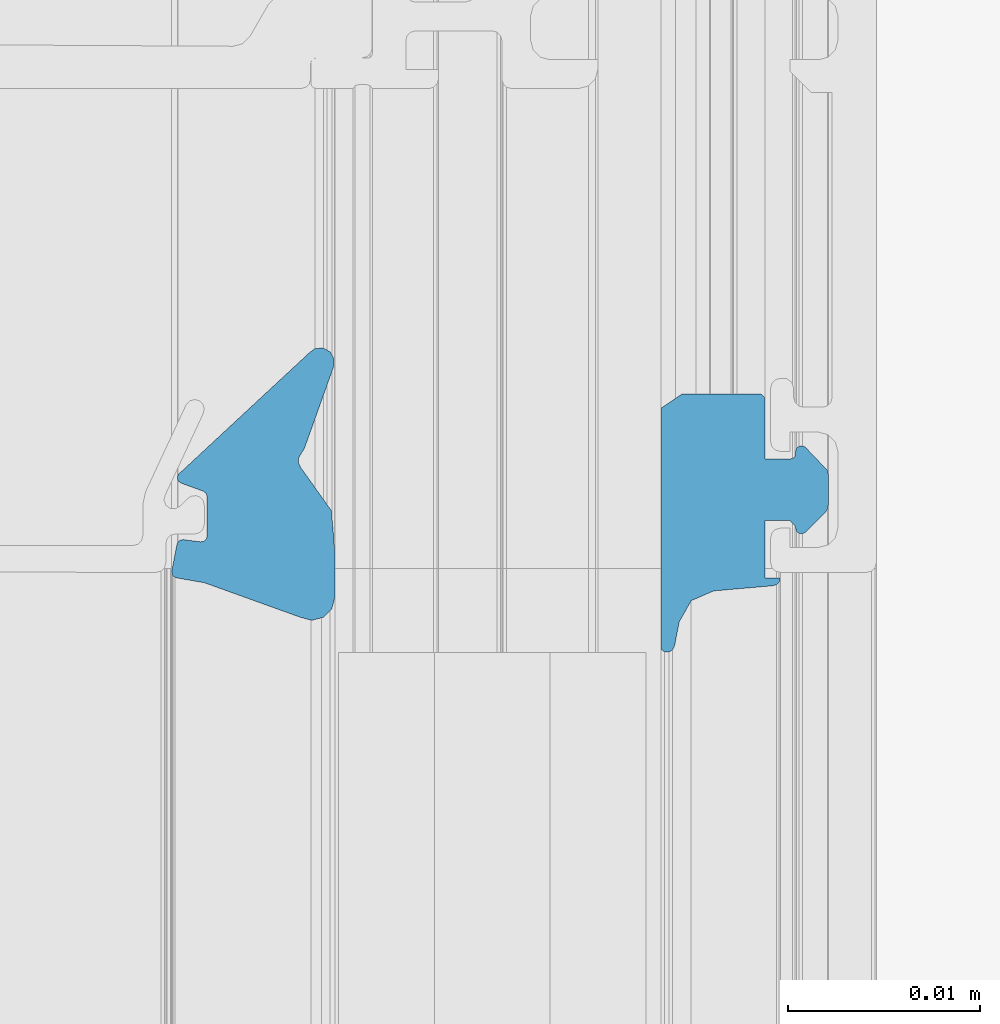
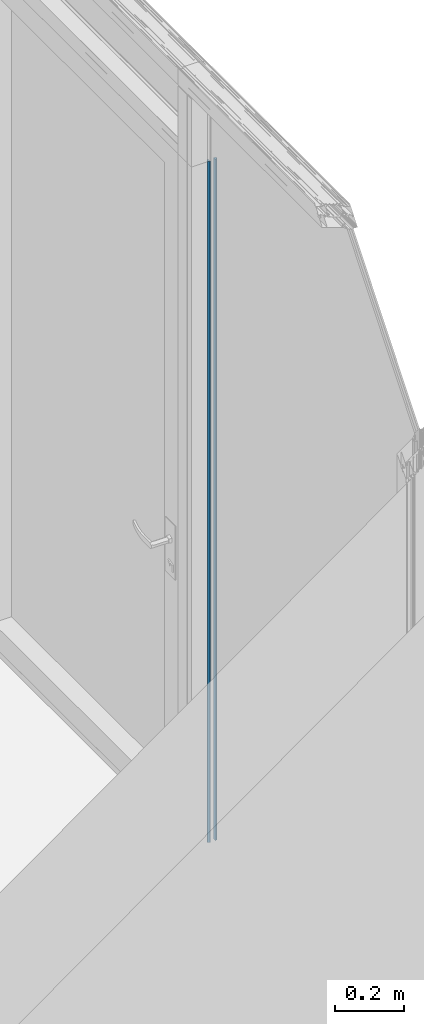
# One storey, part 19 of 65: 1 building element part, 2 elements without a shape of their own.
"""IFC2X3 building model written with IfcOpenShell, lengths in millimetres."""

import ifcopenshell
import ifcopenshell.guid

model = None  # the IFC model being written
_history = None  # IfcOwnerHistory: only IFC2X3 demands one
_inside = {}  # id of a spatial element -> (the spatial element, [elements in it])
_under = {}  # id of a project, library or spatial element -> (it, [spatial elements below it])
_declared = {}  # id of a project -> (the project, [libraries it declares])
_typed = {}  # id of a type object -> (the type object, [elements of that type])
_made_of = {}  # id of a material, layer set ... -> (it, [elements and type objects made of it])


def new_model(schema):
    """Start an empty IFC model of exactly this schema.

    Asked for "IFC4X3", IfcOpenShell would pick the latest addendum, in which some entities
    have other attributes; the version numbers below select the first issue.
    IFC2X3 requires an IfcOwnerHistory on every rooted entity: one is made here for all.
    """
    global model, _history
    if schema == "IFC4X3":
        model = ifcopenshell.file(schema_version=(4, 3, 0, 0))
    else:
        model = ifcopenshell.file(schema=schema)
    _inside.clear()
    _under.clear()
    _declared.clear()
    _typed.clear()
    _made_of.clear()
    _history = None
    if model.schema == "IFC2X3":
        org = make("IfcOrganization", Name="unknown")
        user = make(
            "IfcPersonAndOrganization",
            ThePerson=make("IfcPerson", FamilyName="unknown"),
            TheOrganization=org,
        )
        app = make(
            "IfcApplication",
            ApplicationDeveloper=org,
            Version="unknown",
            ApplicationFullName="unknown",
            ApplicationIdentifier="unknown",
        )
        _history = make(
            "IfcOwnerHistory",
            OwningUser=user,
            OwningApplication=app,
            ChangeAction="ADDED",
            CreationDate=0,
        )
    return model


def make(cls, **values):
    """One entity of the class cls with the attributes given. An attribute that is None is left unset."""
    return model.create_entity(
        cls, **{name: value for name, value in values.items() if value is not None}
    )


def entity(cls, *values):
    """Any entity or typed value of the class cls, its attributes in the order of the schema. None: left unset."""
    e = model.create_entity(cls)
    for i, value in enumerate(values):
        if value is not None:
            e[i] = value
    return e


def rooted(cls, **values):
    """An entity with a GlobalId (a new one), such as an element, a storey or a relation."""
    return make(cls, GlobalId=ifcopenshell.guid.new(), OwnerHistory=_history, **values)


def si_unit(unit_type, name, prefix=None):
    """IfcSIUnit, for example si_unit("LENGTHUNIT", "METRE", prefix="MILLI")."""
    return make("IfcSIUnit", UnitType=unit_type, Prefix=prefix, Name=name)


def converted_unit(unit_type, name, factor, base, dimensions=None, offset=None):
    """IfcConversionBasedUnit, such as the inch: factor (a typed value) times the base unit."""
    return make(
        "IfcConversionBasedUnit"
        if offset is None
        else "IfcConversionBasedUnitWithOffset",
        ConversionOffset=offset,
        Dimensions=None
        if dimensions is None
        else entity("IfcDimensionalExponents", *dimensions),
        UnitType=unit_type,
        Name=name,
        ConversionFactor=make(
            "IfcMeasureWithUnit", ValueComponent=factor, UnitComponent=base
        ),
    )


def derived_unit(unit_type, elements):
    """IfcDerivedUnit: a product of units, each with its exponent."""
    return make(
        "IfcDerivedUnit",
        Elements=[
            make("IfcDerivedUnitElement", Unit=unit, Exponent=power)
            for unit, power in elements
        ],
        UnitType=unit_type,
    )


def money_unit(currency):
    """IfcMonetaryUnit."""
    return make("IfcMonetaryUnit", Currency=currency)


def assignment(units):
    """IfcUnitAssignment: the units of a project."""
    return None if units is None else make("IfcUnitAssignment", Units=units)


def point(xyz):
    """IfcCartesianPoint."""
    return None if xyz is None else make("IfcCartesianPoint", Coordinates=xyz)


def direction(xyz):
    """IfcDirection."""
    return None if xyz is None else make("IfcDirection", DirectionRatios=xyz)


def frame(location, z_axis=None, x_axis=None):
    """IfcAxis2Placement3D, a coordinate frame: its origin and axes. An axis left out is left unset."""
    return make(
        "IfcAxis2Placement3D",
        Location=point(location),
        Axis=direction(z_axis),
        RefDirection=direction(x_axis),
    )


def origin_with_axes():
    """The frame at (0, 0, 0) with the z axis (0, 0, 1) and the x axis (1, 0, 0) written out."""
    return frame((0.0, 0.0, 0.0), z_axis=(0.0, 0.0, 1.0), x_axis=(1.0, 0.0, 0.0))


def place(relative_to, where):
    """IfcLocalPlacement: puts the frame where relative to a parent placement (None: the world)."""
    return make(
        "IfcLocalPlacement", PlacementRelTo=relative_to, RelativePlacement=where
    )


def context(
    kind, dimensions, precision=None, world=None, true_north=None, identifier=None
):
    """IfcGeometricRepresentationContext, for example the 3D "Model" context."""
    return make(
        "IfcGeometricRepresentationContext",
        ContextIdentifier=identifier,
        ContextType=kind,
        CoordinateSpaceDimension=dimensions,
        Precision=precision,
        WorldCoordinateSystem=world,
        TrueNorth=true_north,
    )


def subcontext(parent, identifier, kind, view, scale=None):
    """IfcGeometricRepresentationSubContext, for example "Body" below "Model"."""
    return make(
        "IfcGeometricRepresentationSubContext",
        ContextIdentifier=identifier,
        ContextType=kind,
        ParentContext=parent,
        TargetScale=scale,
        TargetView=view,
    )


def project(units=None, contexts=None):
    """IfcProject with its units and contexts."""
    return rooted(
        "IfcProject",
        Name="project",
        RepresentationContexts=contexts,
        UnitsInContext=assignment(units),
    )


def spatial(cls, under=None, at=None, **own):
    """A site, building, storey or space (cls), placed at a placement, below another one or the project."""
    s = rooted(cls, ObjectPlacement=at, **own)
    if under is not None:
        _under.setdefault(under.id(), (under, []))[1].append(s)
    return s


def faces_of(points, faces, orient=None, outer=None):
    """IfcFace entities. A face is a list of loops; a loop is a list of indices into points, from 0.

    orient and outer hold one flag for each loop. By default every Orientation is true, the
    first loop of a face is its IfcFaceOuterBound and the others are IfcFaceBound.
    """
    made = []
    for i, loops in enumerate(faces):
        bounds = []
        for j, loop in enumerate(loops):
            is_outer = j == 0 if outer is None else outer[i][j]
            bounds.append(
                make(
                    "IfcFaceOuterBound" if is_outer else "IfcFaceBound",
                    Bound=make("IfcPolyLoop", Polygon=[points[k] for k in loop]),
                    Orientation=True if orient is None else orient[i][j],
                )
            )
        made.append(make("IfcFace", Bounds=bounds))
    return made


def faceted_brep(points, faces, orient=None, outer=None, voids=None):
    """IfcFacetedBrep: a solid bounded by flat faces; with voids (closed shells), ...WithVoids."""
    shared = [point(p) for p in points]
    hull = make("IfcClosedShell", CfsFaces=faces_of(shared, faces, orient, outer))
    if voids is None:
        return make("IfcFacetedBrep", Outer=hull)
    return make(
        "IfcFacetedBrepWithVoids",
        Outer=hull,
        Voids=[
            make(cls, CfsFaces=faces_of(shared, fs, o, b)) for cls, fs, o, b in voids
        ],
    )


def shape(context_of_items, identifier, shape_type, items):
    """IfcShapeRepresentation: the items that make up one representation, for example the "Body"."""
    return make(
        "IfcShapeRepresentation",
        ContextOfItems=context_of_items,
        RepresentationIdentifier=identifier,
        RepresentationType=shape_type,
        Items=items,
    )


def source(mapping_origin, context_of_items, identifier, shape_type, items):
    """IfcRepresentationMap: a shape defined once, which mapped items show again and again."""
    return make(
        "IfcRepresentationMap",
        MappingOrigin=mapping_origin,
        MappedRepresentation=shape(context_of_items, identifier, shape_type, items),
    )


def transform(
    local_origin,
    x_axis=None,
    y_axis=None,
    z_axis=None,
    scale=None,
    scale2=None,
    scale3=None,
    uniform=True,
):
    """IfcCartesianTransformationOperator3D, or its non-uniform kind. x_axis, y_axis, z_axis: its Axis1, 2, 3."""
    if uniform:
        return make(
            "IfcCartesianTransformationOperator3D",
            Axis1=direction(x_axis),
            Axis2=direction(y_axis),
            LocalOrigin=point(local_origin),
            Scale=scale,
            Axis3=direction(z_axis),
        )
    return make(
        "IfcCartesianTransformationOperator3DnonUniform",
        Axis1=direction(x_axis),
        Axis2=direction(y_axis),
        LocalOrigin=point(local_origin),
        Scale=scale,
        Axis3=direction(z_axis),
        Scale2=scale2,
        Scale3=scale3,
    )


def mapped(mapping_source, mapping_target):
    """IfcMappedItem: shows the shape of a source again, moved by a transform."""
    return make(
        "IfcMappedItem", MappingSource=mapping_source, MappingTarget=mapping_target
    )


def material(Name=None, Category=None):
    """IfcMaterial."""
    return make("IfcMaterial", Name=Name, Category=Category)


def made_of(thing, what):
    """Note that an element or type object is made of a material, layer set ...; save() writes the relation."""
    if what is not None:
        _made_of.setdefault(what.id(), (what, []))[1].append(thing)
    return thing


def type_object(cls, material=None, **own):
    """A type object (cls), such as IfcWallType, which elements share."""
    return made_of(rooted(cls, **own), material)


def element(
    cls,
    number,
    at=None,
    inside=None,
    cuts=None,
    type_object=None,
    material=None,
    context=None,
    identifier="Body",
    shape_type=None,
    held_by="IfcProductDefinitionShape",
    body=None,
    shapes=None,
    **own,
):
    """One element of the class cls, such as IfcWall. Its Tag is "e" and its number.

    at: its placement. inside: the storey or other place that contains it. cuts: it is an
    opening in that element (IfcRelVoidsElement). A single representation is given by context,
    identifier, shape_type and body (its items); several are given by shapes. held_by: the class
    of the entity that holds the representations. save() writes the other relations.
    """
    e = rooted(cls, Tag="e%d" % number, ObjectPlacement=at, **own)
    if body is not None:
        shapes = [shape(context, identifier, shape_type, body)]
    if shapes is not None:
        e.Representation = make(held_by, Representations=shapes)
    if inside is not None:
        _inside.setdefault(inside.id(), (inside, []))[1].append(e)
    if cuts is not None:
        rooted(
            "IfcRelVoidsElement", RelatingBuildingElement=cuts, RelatedOpeningElement=e
        )
    if type_object is not None:
        _typed.setdefault(type_object.id(), (type_object, []))[1].append(e)
    return made_of(e, material)


def aggregate(whole, parts):
    """IfcRelAggregates: a whole, such as a stair, and the parts it consists of."""
    return rooted("IfcRelAggregates", RelatingObject=whole, RelatedObjects=parts)


def save(model, path):
    """Write the relations noted so far, then the file.

    IfcRelAggregates (storeys below a building ...), IfcRelContainedInSpatialStructure (elements
    in a storey), IfcRelDefinesByType, IfcRelAssociatesMaterial and IfcRelDeclares: one each for
    every whole, place, type object, material and project.
    """
    for whole, parts in _under.values():
        aggregate(whole, parts)
    for where, things in _inside.values():
        rooted(
            "IfcRelContainedInSpatialStructure",
            RelatedElements=things,
            RelatingStructure=where,
        )
    for kind, things in _typed.values():
        rooted("IfcRelDefinesByType", RelatedObjects=things, RelatingType=kind)
    for what, things in _made_of.values():
        rooted("IfcRelAssociatesMaterial", RelatedObjects=things, RelatingMaterial=what)
    for by, libraries in _declared.values():
        rooted("IfcRelDeclares", RelatingContext=by, RelatedDefinitions=libraries)
    model.write(path)


model = new_model("IFC2X3")

# Units and contexts
model_context = context("Model", 3, precision=0.01, world=origin_with_axes(), true_north=direction((0.0, 1.0)))
body_context = subcontext(model_context, "Body", "Model", "MODEL_VIEW")
ifc_project = project(units=[si_unit("LENGTHUNIT", "METRE", prefix="MILLI"), si_unit("AREAUNIT", "SQUARE_METRE"), si_unit("VOLUMEUNIT", "CUBIC_METRE"), converted_unit("PLANEANGLEUNIT", "DEGREE", entity("IfcPlaneAngleMeasure", 0.0174532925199), si_unit("PLANEANGLEUNIT", "RADIAN"), dimensions=[0, 0, 0, 0, 0, 0, 0]), si_unit("SOLIDANGLEUNIT", "STERADIAN"), money_unit("EUR"), converted_unit("TIMEUNIT", "Year", entity("IfcTimeMeasure", 31556926.0), si_unit("TIMEUNIT", "SECOND"), dimensions=[0, 0, 1, 0, 0, 0, 0]), si_unit("MASSUNIT", "GRAM", prefix="KILO"), si_unit("THERMODYNAMICTEMPERATUREUNIT", "DEGREE_CELSIUS"), si_unit("LUMINOUSINTENSITYUNIT", "LUMEN"), si_unit("ENERGYUNIT", "JOULE", prefix="MEGA"), derived_unit("THERMALCONDUCTANCEUNIT", [(si_unit("POWERUNIT", "WATT"), 1), (si_unit("LENGTHUNIT", "METRE"), -1), (si_unit("THERMODYNAMICTEMPERATUREUNIT", "KELVIN"), -1)]), derived_unit("SPECIFICHEATCAPACITYUNIT", [(si_unit("ENERGYUNIT", "JOULE"), 1), (si_unit("MASSUNIT", "GRAM", prefix="KILO"), -1), (si_unit("THERMODYNAMICTEMPERATUREUNIT", "KELVIN"), -1)]), derived_unit("MASSDENSITYUNIT", [(si_unit("MASSUNIT", "GRAM", prefix="KILO"), 1), (si_unit("VOLUMEUNIT", "CUBIC_METRE"), -1)])], contexts=[model_context])

# Site, building, storey
site_placement = place(None, origin_with_axes())
site = spatial("IfcSite", under=ifc_project, at=site_placement, Name="Puškini 31, Narva", CompositionType="ELEMENT")
building_placement = place(site_placement, origin_with_axes())
building = spatial("IfcBuilding", under=site, at=building_placement, Name="Narva Riigigümnaasium", CompositionType="ELEMENT")
storey_placement = place(building_placement, frame((0.0, 0.0, -1320.0), z_axis=(0.0, 0.0, 1.0), x_axis=(1.0, 0.0, 0.0)))
storey = spatial("IfcBuildingStorey", under=building, at=storey_placement, Name="1.korrus -1.32", CompositionType="ELEMENT", Elevation=-1320.0)

# Curtain wall, member, building element part
curtain_wall_type = type_object("IfcCurtainWallType", Name="Curtain Wall Type", PredefinedType="NOTDEFINED")
curtain_wall_placement = place(storey_placement, frame((28354.9542923, 194209.397521, 0.0), z_axis=(0.0, 0.0, 1.0), x_axis=(1.0, 0.0, 0.0)))
curtain_wall = element("IfcCurtainWall", 1, at=curtain_wall_placement, inside=storey, type_object=curtain_wall_type, Name="G-SKLF-07")
member_type = type_object("IfcMemberType", Name="82 x 45", PredefinedType="MULLION")
member_placement = place(curtain_wall_placement, frame((-0.00287447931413, -709.401652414, 0.0), z_axis=(0.0, 0.0, 1.0), x_axis=(-4.05197718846e-06, -0.999999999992, 0.0)))
member = element("IfcMember", 2, at=member_placement, type_object=member_type, Name="G-SKLF-07-raam", ObjectType="MULLION")
aggregate(curtain_wall, [member])
ifc_material = material(Name="Membraan - Veekindel")
shared_shape = source(origin_with_axes(), body_context, "Body", "Brep", [
    faceted_brep([(74.9898926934, 16.6230552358, 0.0), (72.7204882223, 15.0100099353, 0.0), (72.7204882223, 15.0100099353, 2400.0), (74.9898926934, 16.6230552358, 2400.0), (77.1927259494, 16.806401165, 0.0), (79.5038972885, 16.8013439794, 0.0), (80.1029794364, 16.6395947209, 0.0), (80.5411647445, 16.2002134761, 0.0), (80.7012805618, 15.6006926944, 0.0), (80.5405112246, 15.001346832, 0.0), (78.7418652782, 10.0036443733, 0.0), (78.4882789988, 8.54540440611, 0.0), (78.4207620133, 8.4047573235, 0.0), (78.2917480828, 8.3170330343, 0.0), (78.1361285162, 8.30595622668, 0.0), (76.7361285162, 8.57808865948, 0.0), (76.601588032, 8.64188392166, 0.0), (76.5142922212, 8.76250903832, 0.0), (76.4957458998, 8.91024871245, 0.0), (76.6099827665, 9.81277248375, 0.0), (76.5838261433, 9.9781344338, 0.0), (76.4731258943, 10.1037298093, 0.0), (76.3123574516, 10.1504443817, 0.0), (74.2580290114, 10.1504443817, 0.0), (74.0859560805, 10.096189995, 0.0), (73.9761212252, 9.95305042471, 0.0), (73.5556584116, 8.79783833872, 0.0), (73.4722984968, 8.67558063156, 0.0), (73.3406152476, 8.60808734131, 0.0), (73.192689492, 8.61180126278, 0.0), (73.0645590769, 8.68581760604, 0.0), (66.8142070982, 15.4145273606, 0.0), (66.5501763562, 15.7474287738, 0.0), (66.5093924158, 16.1703616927, 0.0), (66.7049453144, 16.5475813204, 0.0), (67.0740702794, 16.7580150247, 0.0), (67.4982927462, 16.7341218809, 0.0), (71.7536994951, 15.2121692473, 0.0), (72.0437237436, 15.0307647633, 0.0), (72.2558878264, 14.9074571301, 0.0), (72.5011668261, 14.8999349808, 0.0), (72.5011668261, 14.8999349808, 2400.0), (72.2558878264, 14.9074571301, 2400.0), (72.0437237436, 15.0307647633, 2400.0), (71.7536994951, 15.2121692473, 2400.0), (67.4982927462, 16.7341218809, 2400.0), (67.0740702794, 16.7580150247, 2400.0), (66.7049453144, 16.5475813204, 2400.0), (66.5093924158, 16.1703616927, 2400.0), (66.5501763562, 15.7474287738, 2400.0), (66.8142070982, 15.4145273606, 2400.0), (73.0645590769, 8.68581760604, 2400.0), (73.192689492, 8.61180126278, 2400.0), (73.3406152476, 8.60808734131, 2400.0), (73.4722984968, 8.67558063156, 2400.0), (73.5556584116, 8.79783833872, 2400.0), (73.9761212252, 9.95305042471, 2400.0), (74.0859560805, 10.096189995, 2400.0), (74.2580290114, 10.1504443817, 2400.0), (76.3123574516, 10.1504443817, 2400.0), (76.4731258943, 10.1037298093, 2400.0), (76.5838261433, 9.9781344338, 2400.0), (76.6099827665, 9.81277248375, 2400.0), (76.4957458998, 8.91024871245, 2400.0), (76.5142922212, 8.76250903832, 2400.0), (76.601588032, 8.64188392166, 2400.0), (76.7361285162, 8.57808865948, 2400.0), (78.1361285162, 8.30595622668, 2400.0), (78.2917480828, 8.3170330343, 2400.0), (78.4207620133, 8.4047573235, 2400.0), (78.4882789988, 8.54540440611, 2400.0), (78.7418652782, 10.0036443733, 2400.0), (80.5405112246, 15.001346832, 2400.0), (80.7012805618, 15.6006926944, 2400.0), (80.5411647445, 16.2002134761, 2400.0), (80.1029794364, 16.6395947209, 2400.0), (79.5038972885, 16.8013439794, 2400.0), (77.1927259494, 16.806401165, 2400.0)], [[[0, 1, 2, 3]], [[0, 4, 5, 6, 7, 8, 9, 10, 11, 12, 13, 14, 15, 16, 17, 18, 19, 20, 21, 22, 23, 24, 25, 26, 27, 28, 29, 30, 31, 32, 33, 34, 35, 36, 37, 38, 39, 40, 1]], [[1, 40, 41, 2]], [[3, 2, 41, 42, 43, 44, 45, 46, 47, 48, 49, 50, 51, 52, 53, 54, 55, 56, 57, 58, 59, 60, 61, 62, 63, 64, 65, 66, 67, 68, 69, 70, 71, 72, 73, 74, 75, 76, 77]], [[4, 0, 3, 77]], [[5, 4, 77, 76]], [[6, 5, 76, 75]], [[7, 6, 75, 74]], [[8, 7, 74, 73]], [[9, 8, 73, 72]], [[10, 9, 72, 71]], [[11, 10, 71, 70]], [[12, 11, 70, 69]], [[13, 12, 69, 68]], [[14, 13, 68, 67]], [[15, 14, 67, 66]], [[16, 15, 66, 65]], [[17, 16, 65, 64]], [[18, 17, 64, 63]], [[19, 18, 63, 62]], [[20, 19, 62, 61]], [[21, 20, 61, 60]], [[22, 21, 60, 59]], [[23, 22, 59, 58]], [[24, 23, 58, 57]], [[25, 24, 57, 56]], [[26, 25, 56, 55]], [[27, 26, 55, 54]], [[28, 27, 54, 53]], [[29, 28, 53, 52]], [[30, 29, 52, 51]], [[31, 30, 51, 50]], [[32, 31, 50, 49]], [[33, 32, 49, 48]], [[34, 33, 48, 47]], [[35, 34, 47, 46]], [[36, 35, 46, 45]], [[37, 36, 45, 44]], [[38, 37, 44, 43]], [[39, 38, 43, 42]], [[40, 39, 42, 41]]]),
    faceted_brep([(72.8904310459, 42.4618935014, 0.0), (71.6876987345, 41.3119145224, 0.0), (71.6876987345, 41.3119145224, 2400.0), (72.8904310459, 42.4618935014, 2400.0), (73.0818844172, 42.5, 0.0), (74.717932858, 42.5, 0.0), (74.9093558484, 42.461906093, 0.0), (75.0716106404, 42.353428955, 0.0), (76.1122970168, 41.3120098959, 0.0), (76.1942964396, 41.1583915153, 0.0), (76.1771585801, 40.9851032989, 0.0), (76.0666568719, 40.8505228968, 0.0), (75.9000173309, 40.799988, 0.0), (75.800021, 40.799988, 0.0), (75.500021, 40.499988, 0.0), (75.500021, 39.200012, 0.0), (76.5000210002, 39.200012, 0.0), (78.5000022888, 39.2000007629, 0.0), (78.5000022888, 40.0000359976, 0.0), (78.7000161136, 39.9464425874, 0.0), (78.8464370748, 39.8000230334, 0.0), (78.9000324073, 39.6000097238, 0.0), (79.1693613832, 36.5266395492, 0.0), (79.6755028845, 35.3629012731, 0.0), (80.7800222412, 34.7379988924, 0.0), (82.041102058, 34.4928127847, 0.0), (82.2412066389, 34.3909158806, 0.0), (82.3536959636, 34.1965683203, 0.0), (82.3423779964, 33.9722990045, 0.0), (82.2108941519, 33.7902637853, 0.0), (69.647137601, 33.7902637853, 0.0), (68.8997554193, 34.9006000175, 0.0), (68.9000321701, 38.9000291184, 0.0), (68.9402207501, 39.0500149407, 0.0), (69.0500179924, 39.159812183, 0.0), (69.2000038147, 39.2000007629, 0.0), (71.30004, 39.2000007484, 0.0), (72.30004, 39.200012, 0.0), (72.30004, 40.499988, 0.0), (72.2598476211, 40.649988, 0.0), (72.15004, 40.7597956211, 0.0), (72.00004, 40.799988, 0.0), (71.900046, 40.799988, 0.0), (71.7334350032, 40.8505059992, 0.0), (71.6229356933, 40.9850466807, 0.0), (71.6057623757, 41.1582990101, 0.0), (71.6057623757, 41.1582990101, 2400.0), (71.6229356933, 40.9850466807, 2400.0), (71.7334350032, 40.8505059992, 2400.0), (71.900046, 40.799988, 2400.0), (72.00004, 40.799988, 2400.0), (72.15004, 40.7597956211, 2400.0), (72.2598476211, 40.649988, 2400.0), (72.30004, 40.499988, 2400.0), (72.30004, 39.200012, 2400.0), (71.30004, 39.2000007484, 2400.0), (69.2000038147, 39.2000007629, 2400.0), (69.0500179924, 39.159812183, 2400.0), (68.9402207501, 39.0500149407, 2400.0), (68.9000321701, 38.9000291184, 2400.0), (68.8997554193, 34.9006000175, 2400.0), (69.647137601, 33.7902637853, 2400.0), (82.2108941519, 33.7902637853, 2400.0), (82.3423779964, 33.9722990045, 2400.0), (82.3536959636, 34.1965683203, 2400.0), (82.2412066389, 34.3909158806, 2400.0), (82.041102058, 34.4928127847, 2400.0), (80.7800222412, 34.7379988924, 2400.0), (79.6755028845, 35.3629012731, 2400.0), (79.1693613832, 36.5266395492, 2400.0), (78.9000324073, 39.6000097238, 2400.0), (78.8464370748, 39.8000230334, 2400.0), (78.7000161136, 39.9464425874, 2400.0), (78.5000022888, 40.0000359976, 2400.0), (78.5000022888, 39.2000007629, 2400.0), (76.5000210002, 39.200012, 2400.0), (75.500021, 39.200012, 2400.0), (75.500021, 40.499988, 2400.0), (75.800021, 40.799988, 2400.0), (75.9000173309, 40.799988, 2400.0), (76.0666568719, 40.8505228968, 2400.0), (76.1771585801, 40.9851032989, 2400.0), (76.1942964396, 41.1583915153, 2400.0), (76.1122970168, 41.3120098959, 2400.0), (75.0716106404, 42.353428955, 2400.0), (74.9093558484, 42.461906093, 2400.0), (74.717932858, 42.5, 2400.0), (73.0818844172, 42.5, 2400.0)], [[[0, 1, 2, 3]], [[0, 4, 5, 6, 7, 8, 9, 10, 11, 12, 13, 14, 15, 16, 17, 18, 19, 20, 21, 22, 23, 24, 25, 26, 27, 28, 29, 30, 31, 32, 33, 34, 35, 36, 37, 38, 39, 40, 41, 42, 43, 44, 45, 1]], [[1, 45, 46, 2]], [[3, 2, 46, 47, 48, 49, 50, 51, 52, 53, 54, 55, 56, 57, 58, 59, 60, 61, 62, 63, 64, 65, 66, 67, 68, 69, 70, 71, 72, 73, 74, 75, 76, 77, 78, 79, 80, 81, 82, 83, 84, 85, 86, 87]], [[4, 0, 3, 87]], [[5, 4, 87, 86]], [[6, 5, 86, 85]], [[7, 6, 85, 84]], [[8, 7, 84, 83]], [[9, 8, 83, 82]], [[10, 9, 82, 81]], [[11, 10, 81, 80]], [[12, 11, 80, 79]], [[13, 12, 79, 78]], [[14, 13, 78, 77]], [[15, 14, 77, 76]], [[16, 15, 76, 75]], [[17, 16, 75, 74]], [[18, 17, 74, 73]], [[19, 18, 73, 72]], [[20, 19, 72, 71]], [[21, 20, 71, 70]], [[22, 21, 70, 69]], [[23, 22, 69, 68]], [[24, 23, 68, 67]], [[25, 24, 67, 66]], [[26, 25, 66, 65]], [[27, 26, 65, 64]], [[28, 27, 64, 63]], [[29, 28, 63, 62]], [[30, 29, 62, 61]], [[31, 30, 61, 60]], [[32, 31, 60, 59]], [[33, 32, 59, 58]], [[34, 33, 58, 57]], [[35, 34, 57, 56]], [[36, 35, 56, 55]], [[37, 36, 55, 54]], [[38, 37, 54, 53]], [[39, 38, 53, 52]], [[40, 39, 52, 51]], [[41, 40, 51, 50]], [[42, 41, 50, 49]], [[43, 42, 49, 48]], [[44, 43, 48, 47]], [[45, 44, 47, 46]]]),
])
building_element_part_placement = place(member_placement, origin_with_axes())
building_element_part = element("IfcBuildingElementPart", 3, at=building_element_part_placement, material=ifc_material, Name="Membraan - Veekindel", context=body_context, shape_type="MappedRepresentation", body=[
    mapped(shared_shape, transform((0.0, 0.0, 0.0))),
])
aggregate(member, [building_element_part])

save(model, "model.ifc")
